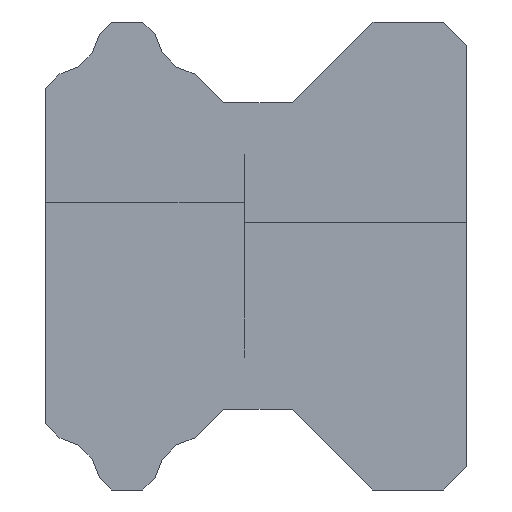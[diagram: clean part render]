
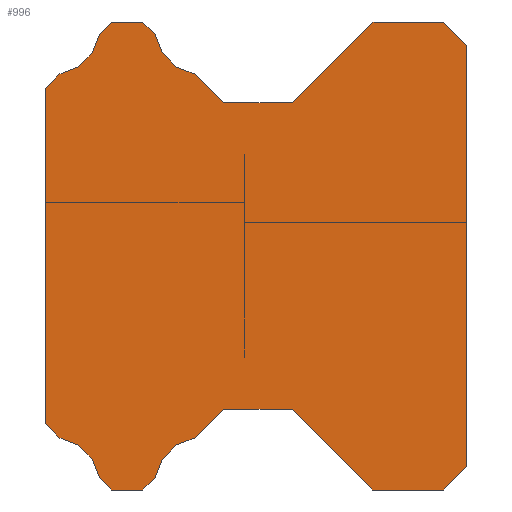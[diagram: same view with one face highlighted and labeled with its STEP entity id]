
A CAD part, left-side view. The second image highlights one B-rep face of the part: STEP entity #996.
In plain terms, the highlighted planar face has unit normal (-1, 0, 0).
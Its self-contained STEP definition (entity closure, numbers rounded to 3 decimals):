
#294=CARTESIAN_POINT('Vertex',(-20.,4.,10.)) ;
#299=CARTESIAN_POINT('Line Origine',(-20.,2.5,10.)) ;
#303=CARTESIAN_POINT('Vertex',(-20.,1.,10.)) ;
#330=CARTESIAN_POINT('Line Origine',(-20.,0.5,9.5)) ;
#334=CARTESIAN_POINT('Vertex',(-20.,0.,9.)) ;
#365=CARTESIAN_POINT('Vertex',(-20.,0.,-9.)) ;
#370=CARTESIAN_POINT('Line Origine',(-20.,0.5,-9.5)) ;
#374=CARTESIAN_POINT('Vertex',(-20.,1.,-10.)) ;
#401=CARTESIAN_POINT('Line Origine',(-20.,2.5,-10.)) ;
#405=CARTESIAN_POINT('Vertex',(-20.,4.,-10.)) ;
#432=CARTESIAN_POINT('Line Origine',(-20.,5.725,-8.275)) ;
#436=CARTESIAN_POINT('Vertex',(-20.,7.45,-6.55)) ;
#463=CARTESIAN_POINT('Line Origine',(-20.,8.915,-6.55)) ;
#467=CARTESIAN_POINT('Vertex',(-20.,10.38,-6.55)) ;
#494=CARTESIAN_POINT('Line Origine',(-20.,10.988,-7.158)) ;
#498=CARTESIAN_POINT('Vertex',(-20.,11.597,-7.767)) ;
#525=CARTESIAN_POINT('Axis2P3D Location',(-20.,11.279,-9.802)) ;
#529=CARTESIAN_POINT('Vertex',(-20.,13.314,-9.484)) ;
#551=CARTESIAN_POINT('Line Origine',(-20.,13.572,-9.742)) ;
#555=CARTESIAN_POINT('Vertex',(-20.,13.83,-10.)) ;
#577=CARTESIAN_POINT('Line Origine',(-20.,14.495,-10.)) ;
#581=CARTESIAN_POINT('Vertex',(-20.,15.16,-10.)) ;
#608=CARTESIAN_POINT('Line Origine',(-20.,15.424,-9.736)) ;
#612=CARTESIAN_POINT('Vertex',(-20.,15.689,-9.471)) ;
#639=CARTESIAN_POINT('Axis2P3D Location',(-20.,17.72,-9.815)) ;
#643=CARTESIAN_POINT('Vertex',(-20.,17.376,-7.784)) ;
#665=CARTESIAN_POINT('Line Origine',(-20.,17.688,-7.472)) ;
#669=CARTESIAN_POINT('Vertex',(-20.,18.,-7.16)) ;
#700=CARTESIAN_POINT('Vertex',(-20.,18.,7.16)) ;
#705=CARTESIAN_POINT('Line Origine',(-20.,17.688,7.472)) ;
#709=CARTESIAN_POINT('Vertex',(-20.,17.376,7.784)) ;
#736=CARTESIAN_POINT('Axis2P3D Location',(-20.,17.72,9.815)) ;
#740=CARTESIAN_POINT('Vertex',(-20.,15.689,9.471)) ;
#762=CARTESIAN_POINT('Line Origine',(-20.,15.424,9.736)) ;
#766=CARTESIAN_POINT('Vertex',(-20.,15.16,10.)) ;
#788=CARTESIAN_POINT('Line Origine',(-20.,14.495,10.)) ;
#792=CARTESIAN_POINT('Vertex',(-20.,13.83,10.)) ;
#819=CARTESIAN_POINT('Line Origine',(-20.,13.572,9.742)) ;
#823=CARTESIAN_POINT('Vertex',(-20.,13.314,9.484)) ;
#850=CARTESIAN_POINT('Axis2P3D Location',(-20.,11.279,9.802)) ;
#854=CARTESIAN_POINT('Vertex',(-20.,11.597,7.767)) ;
#876=CARTESIAN_POINT('Line Origine',(-20.,10.988,7.158)) ;
#880=CARTESIAN_POINT('Vertex',(-20.,10.38,6.55)) ;
#907=CARTESIAN_POINT('Line Origine',(-20.,8.915,6.55)) ;
#911=CARTESIAN_POINT('Vertex',(-20.,7.45,6.55)) ;
#938=CARTESIAN_POINT('Line Origine',(-20.,5.725,8.275)) ;
#955=CARTESIAN_POINT('Axis2P3D Location',(-20.,0.,0.)) ;
#960=CARTESIAN_POINT('Line Origine',(-20.,18.,0.)) ;
#965=CARTESIAN_POINT('Line Origine',(-20.,0.,0.)) ;
#300=DIRECTION('Vector Direction',(0.,-1.,0.)) ;
#331=DIRECTION('Vector Direction',(0.,-0.707,-0.707)) ;
#371=DIRECTION('Vector Direction',(0.,0.707,-0.707)) ;
#402=DIRECTION('Vector Direction',(0.,1.,0.)) ;
#433=DIRECTION('Vector Direction',(0.,0.707,0.707)) ;
#464=DIRECTION('Vector Direction',(0.,1.,0.)) ;
#495=DIRECTION('Vector Direction',(0.,0.707,-0.707)) ;
#526=DIRECTION('Axis2P3D Direction',(1.,-0.,0.)) ;
#552=DIRECTION('Vector Direction',(0.,0.707,-0.707)) ;
#578=DIRECTION('Vector Direction',(0.,1.,0.)) ;
#609=DIRECTION('Vector Direction',(0.,0.707,0.707)) ;
#640=DIRECTION('Axis2P3D Direction',(1.,-0.,0.)) ;
#666=DIRECTION('Vector Direction',(0.,0.707,0.707)) ;
#706=DIRECTION('Vector Direction',(0.,-0.707,0.707)) ;
#737=DIRECTION('Axis2P3D Direction',(1.,-0.,0.)) ;
#763=DIRECTION('Vector Direction',(0.,-0.707,0.707)) ;
#789=DIRECTION('Vector Direction',(0.,-1.,0.)) ;
#820=DIRECTION('Vector Direction',(0.,-0.707,-0.707)) ;
#851=DIRECTION('Axis2P3D Direction',(1.,-0.,0.)) ;
#877=DIRECTION('Vector Direction',(0.,-0.707,-0.707)) ;
#908=DIRECTION('Vector Direction',(0.,-1.,0.)) ;
#939=DIRECTION('Vector Direction',(0.,-0.707,0.707)) ;
#956=DIRECTION('Axis2P3D Direction',(1.,-0.,0.)) ;
#957=DIRECTION('Axis2P3D XDirection',(0.,0.,-1.)) ;
#961=DIRECTION('Vector Direction',(0.,0.,1.)) ;
#966=DIRECTION('Vector Direction',(0.,0.,-1.)) ;
#527=AXIS2_PLACEMENT_3D('Circle Axis2P3D',#525,#526,$) ;
#641=AXIS2_PLACEMENT_3D('Circle Axis2P3D',#639,#640,$) ;
#738=AXIS2_PLACEMENT_3D('Circle Axis2P3D',#736,#737,$) ;
#852=AXIS2_PLACEMENT_3D('Circle Axis2P3D',#850,#851,$) ;
#958=AXIS2_PLACEMENT_3D('Plane Axis2P3D',#955,#956,#957) ;
#971=ORIENTED_EDGE('',*,*,#942,.F.) ;
#972=ORIENTED_EDGE('',*,*,#913,.F.) ;
#973=ORIENTED_EDGE('',*,*,#882,.F.) ;
#974=ORIENTED_EDGE('',*,*,#856,.F.) ;
#975=ORIENTED_EDGE('',*,*,#825,.F.) ;
#976=ORIENTED_EDGE('',*,*,#794,.F.) ;
#977=ORIENTED_EDGE('',*,*,#768,.F.) ;
#978=ORIENTED_EDGE('',*,*,#742,.F.) ;
#979=ORIENTED_EDGE('',*,*,#711,.F.) ;
#980=ORIENTED_EDGE('',*,*,#964,.F.) ;
#981=ORIENTED_EDGE('',*,*,#671,.F.) ;
#982=ORIENTED_EDGE('',*,*,#645,.F.) ;
#983=ORIENTED_EDGE('',*,*,#614,.F.) ;
#984=ORIENTED_EDGE('',*,*,#583,.F.) ;
#985=ORIENTED_EDGE('',*,*,#557,.F.) ;
#986=ORIENTED_EDGE('',*,*,#531,.F.) ;
#987=ORIENTED_EDGE('',*,*,#500,.F.) ;
#988=ORIENTED_EDGE('',*,*,#469,.F.) ;
#989=ORIENTED_EDGE('',*,*,#438,.F.) ;
#990=ORIENTED_EDGE('',*,*,#407,.F.) ;
#991=ORIENTED_EDGE('',*,*,#376,.F.) ;
#992=ORIENTED_EDGE('',*,*,#969,.F.) ;
#993=ORIENTED_EDGE('',*,*,#336,.F.) ;
#994=ORIENTED_EDGE('',*,*,#305,.F.) ;
#301=VECTOR('Line Direction',#300,1.) ;
#332=VECTOR('Line Direction',#331,1.) ;
#372=VECTOR('Line Direction',#371,1.) ;
#403=VECTOR('Line Direction',#402,1.) ;
#434=VECTOR('Line Direction',#433,1.) ;
#465=VECTOR('Line Direction',#464,1.) ;
#496=VECTOR('Line Direction',#495,1.) ;
#553=VECTOR('Line Direction',#552,1.) ;
#579=VECTOR('Line Direction',#578,1.) ;
#610=VECTOR('Line Direction',#609,1.) ;
#667=VECTOR('Line Direction',#666,1.) ;
#707=VECTOR('Line Direction',#706,1.) ;
#764=VECTOR('Line Direction',#763,1.) ;
#790=VECTOR('Line Direction',#789,1.) ;
#821=VECTOR('Line Direction',#820,1.) ;
#878=VECTOR('Line Direction',#877,1.) ;
#909=VECTOR('Line Direction',#908,1.) ;
#940=VECTOR('Line Direction',#939,1.) ;
#962=VECTOR('Line Direction',#961,1.) ;
#967=VECTOR('Line Direction',#966,1.) ;
#996=ADVANCED_FACE('HSV20_RAIL_4540L',(#995),#959,.F.) ;
#528=CIRCLE('generated circle',#527,2.06) ;
#642=CIRCLE('generated circle',#641,2.06) ;
#739=CIRCLE('generated circle',#738,2.06) ;
#853=CIRCLE('generated circle',#852,2.06) ;
#305=EDGE_CURVE('',#295,#304,#302,.T.) ;
#336=EDGE_CURVE('',#304,#335,#333,.T.) ;
#376=EDGE_CURVE('',#366,#375,#373,.T.) ;
#407=EDGE_CURVE('',#375,#406,#404,.T.) ;
#438=EDGE_CURVE('',#406,#437,#435,.T.) ;
#469=EDGE_CURVE('',#437,#468,#466,.T.) ;
#500=EDGE_CURVE('',#468,#499,#497,.T.) ;
#531=EDGE_CURVE('',#499,#530,#528,.F.) ;
#557=EDGE_CURVE('',#530,#556,#554,.T.) ;
#583=EDGE_CURVE('',#556,#582,#580,.T.) ;
#614=EDGE_CURVE('',#582,#613,#611,.T.) ;
#645=EDGE_CURVE('',#613,#644,#642,.F.) ;
#671=EDGE_CURVE('',#644,#670,#668,.T.) ;
#711=EDGE_CURVE('',#701,#710,#708,.T.) ;
#742=EDGE_CURVE('',#710,#741,#739,.F.) ;
#768=EDGE_CURVE('',#741,#767,#765,.T.) ;
#794=EDGE_CURVE('',#767,#793,#791,.T.) ;
#825=EDGE_CURVE('',#793,#824,#822,.T.) ;
#856=EDGE_CURVE('',#824,#855,#853,.F.) ;
#882=EDGE_CURVE('',#855,#881,#879,.T.) ;
#913=EDGE_CURVE('',#881,#912,#910,.T.) ;
#942=EDGE_CURVE('',#912,#295,#941,.T.) ;
#964=EDGE_CURVE('',#670,#701,#963,.T.) ;
#969=EDGE_CURVE('',#335,#366,#968,.T.) ;
#970=EDGE_LOOP('',(#971,#972,#973,#974,#975,#976,#977,#978,#979,#980,#981,#982,#983,#984,#985,#986,#987,#988,#989,#990,#991,#992,#993,#994)) ;
#995=FACE_OUTER_BOUND('',#970,.T.) ;
#302=LINE('Line',#299,#301) ;
#333=LINE('Line',#330,#332) ;
#373=LINE('Line',#370,#372) ;
#404=LINE('Line',#401,#403) ;
#435=LINE('Line',#432,#434) ;
#466=LINE('Line',#463,#465) ;
#497=LINE('Line',#494,#496) ;
#554=LINE('Line',#551,#553) ;
#580=LINE('Line',#577,#579) ;
#611=LINE('Line',#608,#610) ;
#668=LINE('Line',#665,#667) ;
#708=LINE('Line',#705,#707) ;
#765=LINE('Line',#762,#764) ;
#791=LINE('Line',#788,#790) ;
#822=LINE('Line',#819,#821) ;
#879=LINE('Line',#876,#878) ;
#910=LINE('Line',#907,#909) ;
#941=LINE('Line',#938,#940) ;
#963=LINE('Line',#960,#962) ;
#968=LINE('Line',#965,#967) ;
#959=PLANE('',#958) ;
#295=VERTEX_POINT('',#294) ;
#304=VERTEX_POINT('',#303) ;
#335=VERTEX_POINT('',#334) ;
#366=VERTEX_POINT('',#365) ;
#375=VERTEX_POINT('',#374) ;
#406=VERTEX_POINT('',#405) ;
#437=VERTEX_POINT('',#436) ;
#468=VERTEX_POINT('',#467) ;
#499=VERTEX_POINT('',#498) ;
#530=VERTEX_POINT('',#529) ;
#556=VERTEX_POINT('',#555) ;
#582=VERTEX_POINT('',#581) ;
#613=VERTEX_POINT('',#612) ;
#644=VERTEX_POINT('',#643) ;
#670=VERTEX_POINT('',#669) ;
#701=VERTEX_POINT('',#700) ;
#710=VERTEX_POINT('',#709) ;
#741=VERTEX_POINT('',#740) ;
#767=VERTEX_POINT('',#766) ;
#793=VERTEX_POINT('',#792) ;
#824=VERTEX_POINT('',#823) ;
#855=VERTEX_POINT('',#854) ;
#881=VERTEX_POINT('',#880) ;
#912=VERTEX_POINT('',#911) ;
